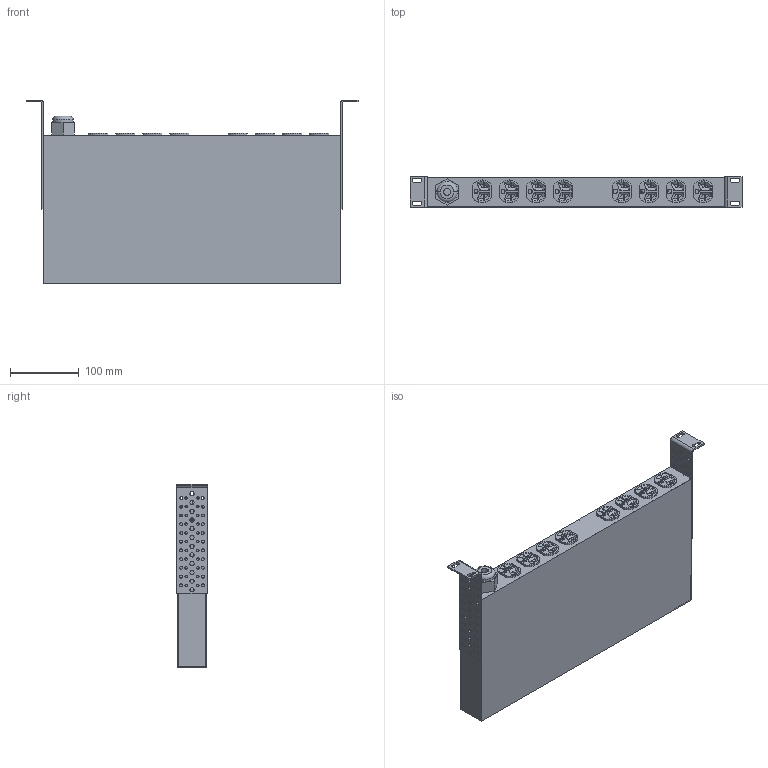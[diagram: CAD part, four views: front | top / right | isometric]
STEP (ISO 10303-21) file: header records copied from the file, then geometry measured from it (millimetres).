
FILE_DESCRIPTION (( 'STEP AP214' ), '1' );
FILE_NAME ('dpc1n119820.STEP', '2008-01-31T18:16:42', ( '' ), ( '' ), 'SwSTEP 2.0', 'SolidWorks 2007', '' );
FILE_SCHEMA (( 'AUTOMOTIVE_DESIGN' ));
Length unit declared in the file: inch
Products named in the file (8): MountingBracket; Label_HorzControlRear; EthernetJack; Body_19inHorzControl; dpc1n119820; PowerCordJack; RemoteDisplayJack; RemoteSensor
Assembly tree (16 placements, depth 2):
  dpc1n119820
    RemoteSensor  x2
    EthernetJack
    PowerCordJack  x8
    RemoteDisplayJack
    Label_HorzControlRear
    Body_19inHorzControl
    MountingBracket  x2
Bounding box: 482.6 x 44.2 x 266.95 mm (x, y, z)
Volume: 430932 mm3; surface area: 542357 mm2
Topology: 16 solids, 16 shells, 1084 faces, 2892 edges, 1850 vertices
Faces by surface type: cylinder 462, plane 444, bspline 96, torus 66, cone 16
Entity records: 14328 total; most frequent: CARTESIAN_POINT 2723, DIRECTION 2361, ORIENTED_EDGE 2308, EDGE_CURVE 1154, AXIS2_PLACEMENT_3D 825, VERTEX_POINT 757, VECTOR 711, LINE 711
